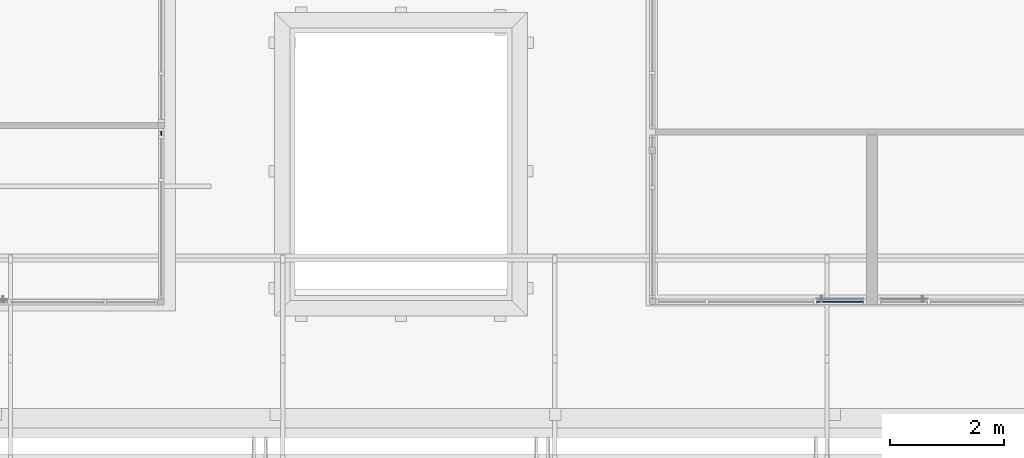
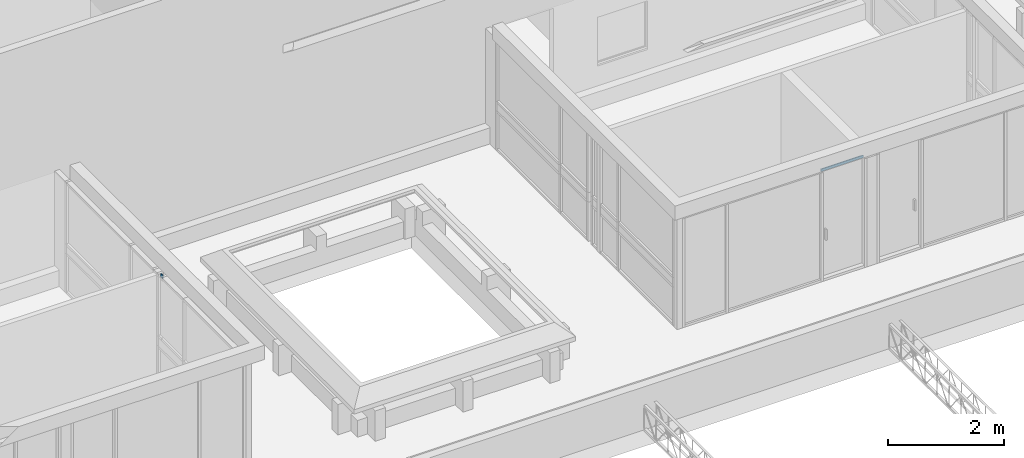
# One storey, part 108 of 153: 2 plates, 2 elements without a shape of their own.
"""IFC4 building model written with IfcOpenShell, lengths in metres."""

from ifc_helpers import new_model, entity, si_unit, converted_unit, derived_unit, direction, frame, origin, place, context, subcontext, project, spatial, indexed_curve, outline, extrude, source, transform, mapped, material, type_object, type_shapes, element, aggregate, save


model = new_model("IFC4")

# Units and contexts
model_context = context("Model", 3, precision=1e-05, world=origin(), true_north=direction((6.123031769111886e-17, 1.0)))
body_context = subcontext(model_context, "Body", "Model", "MODEL_VIEW")
ifc_project = project(units=[si_unit("LENGTHUNIT", "METRE"), si_unit("AREAUNIT", "SQUARE_METRE"), si_unit("VOLUMEUNIT", "CUBIC_METRE"), converted_unit("PLANEANGLEUNIT", "DEGREE", entity("IfcRatioMeasure", 0.017453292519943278), si_unit("PLANEANGLEUNIT", "RADIAN"), dimensions=[0, 0, 0, 0, 0, 0, 0]), si_unit("MASSUNIT", "GRAM", prefix="KILO"), derived_unit("MASSDENSITYUNIT", [(si_unit("MASSUNIT", "GRAM", prefix="KILO"), 1), (si_unit("LENGTHUNIT", "METRE"), -3)]), derived_unit("MOMENTOFINERTIAUNIT", [(si_unit("LENGTHUNIT", "METRE"), 4)]), si_unit("TIMEUNIT", "SECOND"), si_unit("FREQUENCYUNIT", "HERTZ"), si_unit("THERMODYNAMICTEMPERATUREUNIT", "DEGREE_CELSIUS"), derived_unit("THERMALTRANSMITTANCEUNIT", [(si_unit("MASSUNIT", "GRAM", prefix="KILO"), 1), (si_unit("THERMODYNAMICTEMPERATUREUNIT", "KELVIN"), -1), (si_unit("TIMEUNIT", "SECOND"), -3)]), derived_unit("VOLUMETRICFLOWRATEUNIT", [(si_unit("LENGTHUNIT", "METRE"), 3), (si_unit("TIMEUNIT", "SECOND"), -1)]), derived_unit("MASSFLOWRATEUNIT", [(si_unit("MASSUNIT", "GRAM", prefix="KILO"), 1), (si_unit("TIMEUNIT", "SECOND"), -1)]), derived_unit("ROTATIONALFREQUENCYUNIT", [(si_unit("TIMEUNIT", "SECOND"), -1)]), si_unit("ELECTRICCURRENTUNIT", "AMPERE"), si_unit("ELECTRICVOLTAGEUNIT", "VOLT"), si_unit("POWERUNIT", "WATT"), si_unit("FORCEUNIT", "NEWTON", prefix="KILO"), si_unit("ILLUMINANCEUNIT", "LUX"), si_unit("LUMINOUSFLUXUNIT", "LUMEN"), si_unit("LUMINOUSINTENSITYUNIT", "CANDELA"), derived_unit("USERDEFINED", [(si_unit("MASSUNIT", "GRAM", prefix="KILO"), -1), (si_unit("LENGTHUNIT", "METRE"), -2), (si_unit("TIMEUNIT", "SECOND"), 3), (si_unit("LUMINOUSFLUXUNIT", "LUMEN"), 1)]), derived_unit("SOUNDPOWERUNIT", [(si_unit("MASSUNIT", "GRAM", prefix="KILO"), 1), (si_unit("LENGTHUNIT", "METRE"), 2), (si_unit("TIMEUNIT", "SECOND"), -3)]), derived_unit("SOUNDPRESSUREUNIT", [(si_unit("MASSUNIT", "GRAM", prefix="KILO"), 1), (si_unit("LENGTHUNIT", "METRE"), -1), (si_unit("TIMEUNIT", "SECOND"), -2)]), derived_unit("LINEARVELOCITYUNIT", [(si_unit("LENGTHUNIT", "METRE"), 1), (si_unit("TIMEUNIT", "SECOND"), -1)]), si_unit("PRESSUREUNIT", "PASCAL"), derived_unit("USERDEFINED", [(si_unit("LENGTHUNIT", "METRE"), -2), (si_unit("MASSUNIT", "GRAM", prefix="KILO"), 1), (si_unit("TIMEUNIT", "SECOND"), -2)]), derived_unit("LINEARFORCEUNIT", [(si_unit("MASSUNIT", "GRAM", prefix="KILO"), 1), (si_unit("LENGTHUNIT", "METRE"), 1), (si_unit("TIMEUNIT", "SECOND"), -2), (si_unit("LENGTHUNIT", "METRE"), -1)]), derived_unit("PLANARFORCEUNIT", [(si_unit("MASSUNIT", "GRAM", prefix="KILO"), 1), (si_unit("LENGTHUNIT", "METRE"), 1), (si_unit("TIMEUNIT", "SECOND"), -2), (si_unit("LENGTHUNIT", "METRE"), -2)])], contexts=[model_context])

# Site, building, storey
site_placement = place(None, origin())
site = spatial("IfcSite", under=ifc_project, at=site_placement, Name="Superficie", CompositionType="ELEMENT")
building_placement = place(site_placement, origin())
building = spatial("IfcBuilding", under=site, at=building_placement, CompositionType="ELEMENT")
storey_placement = place(building_placement, frame((0.0, 0.0, 3.5999999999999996)))
storey = spatial("IfcBuildingStorey", under=building, at=storey_placement, Name="Nivel 1", CompositionType="ELEMENT", Elevation=3.5999999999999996)

# Curtain wall, plate
curtain_wall_type = type_object("IfcCurtainWallType", Name="Muro cortina:Muro cortina - simple", PredefinedType="NOTDEFINED")
curtain_wall_1_placement = place(storey_placement, frame((0.0, 0.0, -3.5999999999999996)))
curtain_wall_1 = element("IfcCurtainWall", 1, at=curtain_wall_1_placement, inside=storey, type_object=curtain_wall_type, Name="Muro cortina:Muro cortina - simple", ObjectType="Muro cortina:Muro cortina - simple", PredefinedType="NOTDEFINED")
ifc_material = material(Name="Cristal", Category="Vidrio")
plate_type_1 = type_object("IfcPlateType", Name="Panel de sistema:Acristalado", PredefinedType="CURTAIN_PANEL", material=ifc_material)
shared_shape_1 = source(origin(), body_context, "Body", "SweptSolid", [
    extrude(outline(indexed_curve([(-0.01, -0.42499999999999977), (0.01, -0.42499999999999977), (0.01, 0.42499999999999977), (-0.01, 0.42499999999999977), (-0.01, -0.42499999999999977)], self_intersect=False)), frame((0.0, 0.0, 0.0), z_axis=(0.0, 0.0, 1.0), x_axis=(0.0, 1.0, 0.0)), (0.0, 0.0, 1.0), 0.04999999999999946),
])
type_shapes(plate_type_1, [shared_shape_1])
plate_1_placement = place(curtain_wall_1_placement, frame((6.366799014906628, -0.9517564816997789, 5.9)))
plate_1 = element("IfcPlate", 2, at=plate_1_placement, type_object=plate_type_1, material=ifc_material, Name="Panel de sistema:Acristalado", ObjectType="Panel de sistema:Acristalado", PredefinedType="CURTAIN_PANEL", context=body_context, shape_type="MappedRepresentation", body=[
    mapped(shared_shape_1, transform((0.0, 0.0, 0.0), scale=1.0)),
])
aggregate(curtain_wall_1, [plate_1])

curtain_wall_2_placement = place(storey_placement, frame((0.0, 0.0, -3.5999999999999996)))
curtain_wall_2 = element("IfcCurtainWall", 3, at=curtain_wall_2_placement, inside=storey, type_object=curtain_wall_type, Name="Muro cortina:Muro cortina - simple", ObjectType="Muro cortina:Muro cortina - simple", PredefinedType="NOTDEFINED")
plate_type_2 = type_object("IfcPlateType", Name="Panel de sistema:Acristalado", PredefinedType="CURTAIN_PANEL", material=ifc_material)
shared_shape_2 = source(origin(), body_context, "Body", "SweptSolid", [
    extrude(outline(indexed_curve([(-0.01, -0.035580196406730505), (0.01, -0.035580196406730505), (0.01, 0.035580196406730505), (-0.01, 0.035580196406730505), (-0.01, -0.035580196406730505)], self_intersect=False)), frame((0.0, 0.0, 0.0), z_axis=(0.0, 0.0, 1.0), x_axis=(0.0, 1.0, 0.0)), (0.0, 0.0, 1.0), 0.07000000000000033),
])
type_shapes(plate_type_2, [shared_shape_2])
plate_2_placement = place(curtain_wall_2_placement, frame((-5.5182009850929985, 1.9958130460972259, 5.879999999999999), z_axis=(0.0, 0.0, 1.0), x_axis=(0.0, 1.0, 0.0)))
plate_2 = element("IfcPlate", 4, at=plate_2_placement, type_object=plate_type_2, material=ifc_material, Name="Panel de sistema:Acristalado", ObjectType="Panel de sistema:Acristalado", PredefinedType="CURTAIN_PANEL", context=body_context, shape_type="MappedRepresentation", body=[
    mapped(shared_shape_2, transform((0.0, 0.0, 0.0), scale=1.0)),
])
aggregate(curtain_wall_2, [plate_2])

save(model, "model.ifc")
